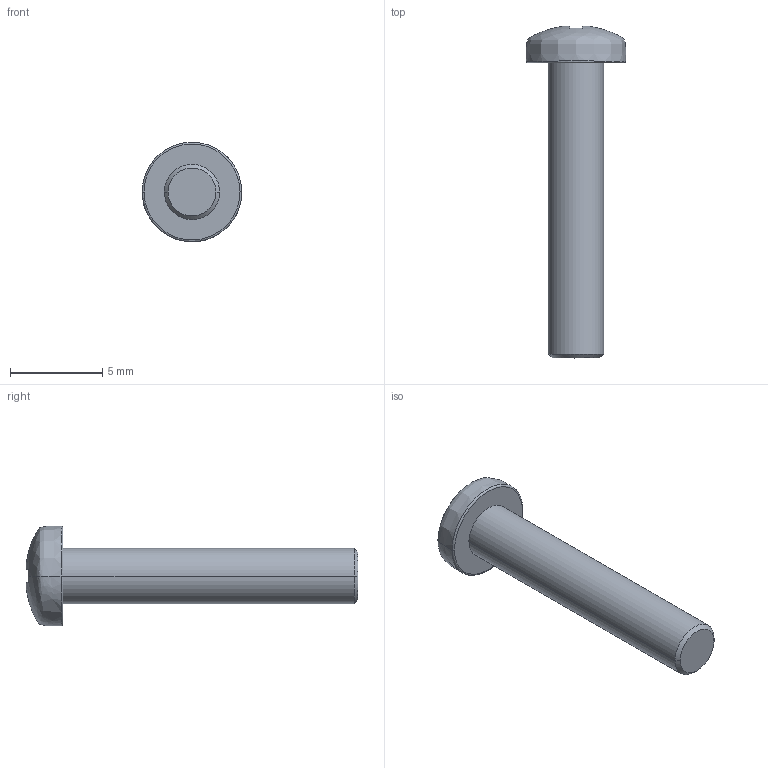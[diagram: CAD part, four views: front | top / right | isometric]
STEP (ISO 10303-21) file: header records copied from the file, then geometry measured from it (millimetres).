
FILE_DESCRIPTION(/* description */ (''),/* implementation_level */ '2;1');
FILE_NAME(/* name */ 'M3X16~1',/* time_stamp */ '2019-04-02T18:56:13-03:00',/* author */ (''),/* organization */ (''),/* preprocessor_version */ 'ST-DEVELOPER v16.5',/* originating_system */ '',/* authorisation */ '');
FILE_SCHEMA (('AUTOMOTIVE_DESIGN'));
Length unit declared in the file: millimetre
Products named in the file (1): Document
Bounding box: 5.4 x 18 x 5.41 mm (x, y, z)
Volume: 147.8 mm3; surface area: 225.1 mm2
Topology: 1 solids, 1 shells, 34 faces, 80 edges, 45 vertices
Faces by surface type: bspline 24, plane 10
Entity records: 1507 total; most frequent: CARTESIAN_POINT 999, ORIENTED_EDGE 152, EDGE_CURVE 76, B_SPLINE_CURVE_WITH_KNOTS 60, VERTEX_POINT 45, EDGE_LOOP 35, ADVANCED_FACE 34, FACE_OUTER_BOUND 34
